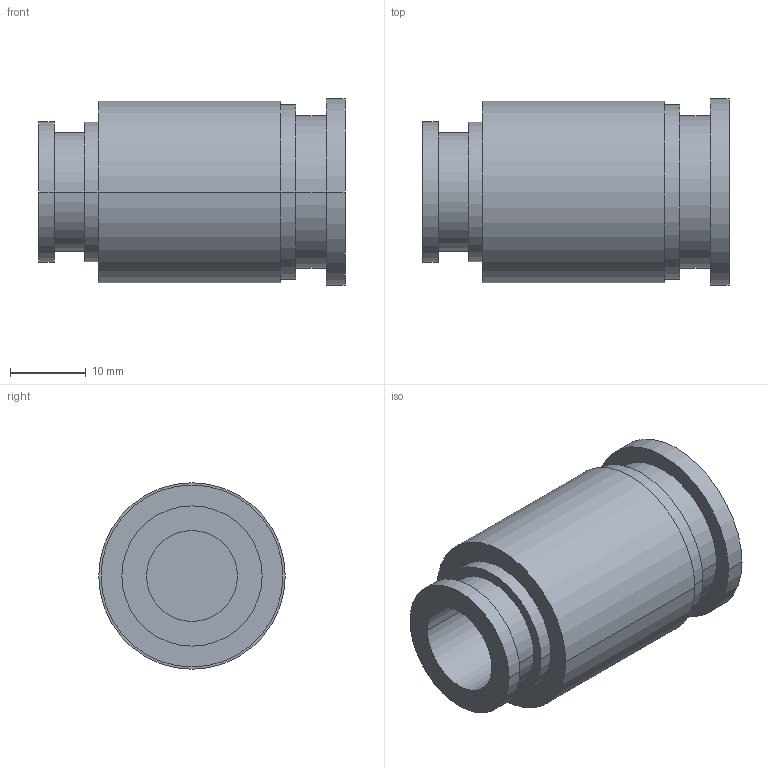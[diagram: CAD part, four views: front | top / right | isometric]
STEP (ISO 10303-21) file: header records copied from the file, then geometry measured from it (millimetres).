
FILE_DESCRIPTION( ( '' ), '1' );
FILE_NAME( 'G:/SMC狟婥/KQ2H12-16A.stp', '2023-03-07T02:53:27', ( '' ), ( '' ), ' ', ' ', ' ' );
FILE_SCHEMA( ( 'CONFIG_CONTROL_DESIGN' ) );
Length unit declared in the file: millimetre
Products named in the file (1): 1
Bounding box: 40.4 x 24.6 x 24.6 mm (x, y, z)
Volume: 9695.9 mm3; surface area: 5942.9 mm2
Topology: 1 solids, 1 shells, 28 faces, 54 edges, 36 vertices
Faces by surface type: cylinder 18, plane 10
Entity records: 778 total; most frequent: DIRECTION 148, CARTESIAN_POINT 119, ORIENTED_EDGE 108, AXIS2_PLACEMENT_3D 65, EDGE_CURVE 54, EDGE_LOOP 36, VERTEX_POINT 36, CIRCLE 36
